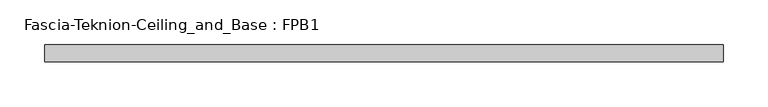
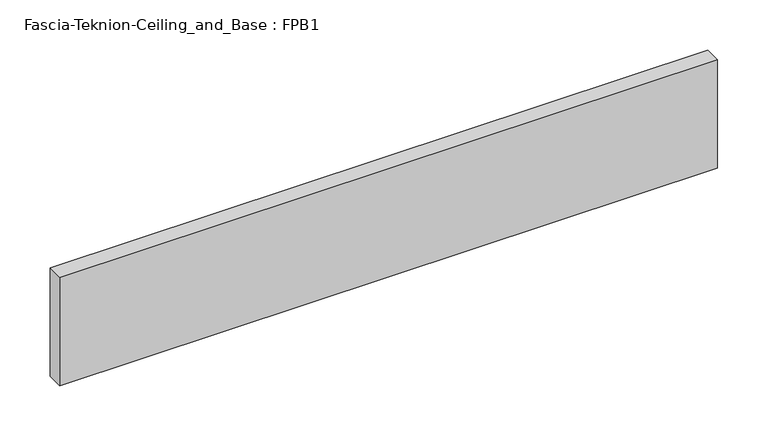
"""IFC4 building model written with IfcOpenShell, lengths in millimetres: proxy geometry, Fascia-Teknion-Ceiling_and_Base : FPB1."""

import ifcopenshell
import ifcopenshell.guid

model = None  # the IFC model being written
_history = None  # IfcOwnerHistory: only IFC2X3 demands one
_inside = {}  # id of a spatial element -> (the spatial element, [elements in it])
_under = {}  # id of a project, library or spatial element -> (it, [spatial elements below it])
_declared = {}  # id of a project -> (the project, [libraries it declares])
_typed = {}  # id of a type object -> (the type object, [elements of that type])
_made_of = {}  # id of a material, layer set ... -> (it, [elements and type objects made of it])


def new_model(schema):
    """Start an empty IFC model of exactly this schema.

    Asked for "IFC4X3", IfcOpenShell would pick the latest addendum, in which some entities
    have other attributes; the version numbers below select the first issue.
    IFC2X3 requires an IfcOwnerHistory on every rooted entity: one is made here for all.
    """
    global model, _history
    if schema == "IFC4X3":
        model = ifcopenshell.file(schema_version=(4, 3, 0, 0))
    else:
        model = ifcopenshell.file(schema=schema)
    _inside.clear()
    _under.clear()
    _declared.clear()
    _typed.clear()
    _made_of.clear()
    _history = None
    if model.schema == "IFC2X3":
        org = make("IfcOrganization", Name="unknown")
        user = make(
            "IfcPersonAndOrganization",
            ThePerson=make("IfcPerson", FamilyName="unknown"),
            TheOrganization=org,
        )
        app = make(
            "IfcApplication",
            ApplicationDeveloper=org,
            Version="unknown",
            ApplicationFullName="unknown",
            ApplicationIdentifier="unknown",
        )
        _history = make(
            "IfcOwnerHistory",
            OwningUser=user,
            OwningApplication=app,
            ChangeAction="ADDED",
            CreationDate=0,
        )
    return model


def make(cls, **values):
    """One entity of the class cls with the attributes given. An attribute that is None is left unset."""
    return model.create_entity(
        cls, **{name: value for name, value in values.items() if value is not None}
    )


def rooted(cls, **values):
    """An entity with a GlobalId (a new one), such as an element, a storey or a relation."""
    return make(cls, GlobalId=ifcopenshell.guid.new(), OwnerHistory=_history, **values)


def si_unit(unit_type, name, prefix=None):
    """IfcSIUnit, for example si_unit("LENGTHUNIT", "METRE", prefix="MILLI")."""
    return make("IfcSIUnit", UnitType=unit_type, Prefix=prefix, Name=name)


def assignment(units):
    """IfcUnitAssignment: the units of a project."""
    return None if units is None else make("IfcUnitAssignment", Units=units)


def point(xyz):
    """IfcCartesianPoint."""
    return None if xyz is None else make("IfcCartesianPoint", Coordinates=xyz)


def direction(xyz):
    """IfcDirection."""
    return None if xyz is None else make("IfcDirection", DirectionRatios=xyz)


def frame(location, z_axis=None, x_axis=None):
    """IfcAxis2Placement3D, a coordinate frame: its origin and axes. An axis left out is left unset."""
    return make(
        "IfcAxis2Placement3D",
        Location=point(location),
        Axis=direction(z_axis),
        RefDirection=direction(x_axis),
    )


def origin():
    """The frame at (0, 0, 0) with its axes left unset."""
    return frame((0.0, 0.0, 0.0))


def origin_with_axes():
    """The frame at (0, 0, 0) with the z axis (0, 0, 1) and the x axis (1, 0, 0) written out."""
    return frame((0.0, 0.0, 0.0), z_axis=(0.0, 0.0, 1.0), x_axis=(1.0, 0.0, 0.0))


def place(relative_to, where):
    """IfcLocalPlacement: puts the frame where relative to a parent placement (None: the world)."""
    return make(
        "IfcLocalPlacement", PlacementRelTo=relative_to, RelativePlacement=where
    )


def context(
    kind, dimensions, precision=None, world=None, true_north=None, identifier=None
):
    """IfcGeometricRepresentationContext, for example the 3D "Model" context."""
    return make(
        "IfcGeometricRepresentationContext",
        ContextIdentifier=identifier,
        ContextType=kind,
        CoordinateSpaceDimension=dimensions,
        Precision=precision,
        WorldCoordinateSystem=world,
        TrueNorth=true_north,
    )


def project(units=None, contexts=None):
    """IfcProject with its units and contexts."""
    return rooted(
        "IfcProject",
        Name="project",
        RepresentationContexts=contexts,
        UnitsInContext=assignment(units),
    )


def spatial(cls, under=None, at=None, **own):
    """A site, building, storey or space (cls), placed at a placement, below another one or the project."""
    s = rooted(cls, ObjectPlacement=at, **own)
    if under is not None:
        _under.setdefault(under.id(), (under, []))[1].append(s)
    return s


def polyline(points):
    """IfcPolyline through the points."""
    return make("IfcPolyline", Points=[point(p) for p in points])


def outline(outer, holes=None, kind="AREA"):
    """IfcArbitraryClosedProfileDef: a profile drawn as a closed curve; with holes, ...WithVoids."""
    if holes is None:
        return make("IfcArbitraryClosedProfileDef", ProfileType=kind, OuterCurve=outer)
    return make(
        "IfcArbitraryProfileDefWithVoids",
        ProfileType=kind,
        OuterCurve=outer,
        InnerCurves=holes,
    )


def extrude(swept, where, along, depth):
    """IfcExtrudedAreaSolid: the profile swept, set in the frame where, extruded along a direction by depth."""
    return make(
        "IfcExtrudedAreaSolid",
        SweptArea=swept,
        Position=where,
        ExtrudedDirection=direction(along),
        Depth=depth,
    )


def shape(context_of_items, identifier, shape_type, items):
    """IfcShapeRepresentation: the items that make up one representation, for example the "Body"."""
    return make(
        "IfcShapeRepresentation",
        ContextOfItems=context_of_items,
        RepresentationIdentifier=identifier,
        RepresentationType=shape_type,
        Items=items,
    )


def source(mapping_origin, context_of_items, identifier, shape_type, items):
    """IfcRepresentationMap: a shape defined once, which mapped items show again and again."""
    return make(
        "IfcRepresentationMap",
        MappingOrigin=mapping_origin,
        MappedRepresentation=shape(context_of_items, identifier, shape_type, items),
    )


def transform(
    local_origin,
    x_axis=None,
    y_axis=None,
    z_axis=None,
    scale=None,
    scale2=None,
    scale3=None,
    uniform=True,
):
    """IfcCartesianTransformationOperator3D, or its non-uniform kind. x_axis, y_axis, z_axis: its Axis1, 2, 3."""
    if uniform:
        return make(
            "IfcCartesianTransformationOperator3D",
            Axis1=direction(x_axis),
            Axis2=direction(y_axis),
            LocalOrigin=point(local_origin),
            Scale=scale,
            Axis3=direction(z_axis),
        )
    return make(
        "IfcCartesianTransformationOperator3DnonUniform",
        Axis1=direction(x_axis),
        Axis2=direction(y_axis),
        LocalOrigin=point(local_origin),
        Scale=scale,
        Axis3=direction(z_axis),
        Scale2=scale2,
        Scale3=scale3,
    )


def mapped(mapping_source, mapping_target):
    """IfcMappedItem: shows the shape of a source again, moved by a transform."""
    return make(
        "IfcMappedItem", MappingSource=mapping_source, MappingTarget=mapping_target
    )


def made_of(thing, what):
    """Note that an element or type object is made of a material, layer set ...; save() writes the relation."""
    if what is not None:
        _made_of.setdefault(what.id(), (what, []))[1].append(thing)
    return thing


def element(
    cls,
    number,
    at=None,
    inside=None,
    cuts=None,
    type_object=None,
    material=None,
    context=None,
    identifier="Body",
    shape_type=None,
    held_by="IfcProductDefinitionShape",
    body=None,
    shapes=None,
    **own,
):
    """One element of the class cls, such as IfcWall. Its Tag is "e" and its number.

    at: its placement. inside: the storey or other place that contains it. cuts: it is an
    opening in that element (IfcRelVoidsElement). A single representation is given by context,
    identifier, shape_type and body (its items); several are given by shapes. held_by: the class
    of the entity that holds the representations. save() writes the other relations.
    """
    e = rooted(cls, Tag="e%d" % number, ObjectPlacement=at, **own)
    if body is not None:
        shapes = [shape(context, identifier, shape_type, body)]
    if shapes is not None:
        e.Representation = make(held_by, Representations=shapes)
    if inside is not None:
        _inside.setdefault(inside.id(), (inside, []))[1].append(e)
    if cuts is not None:
        rooted(
            "IfcRelVoidsElement", RelatingBuildingElement=cuts, RelatedOpeningElement=e
        )
    if type_object is not None:
        _typed.setdefault(type_object.id(), (type_object, []))[1].append(e)
    return made_of(e, material)


def aggregate(whole, parts):
    """IfcRelAggregates: a whole, such as a stair, and the parts it consists of."""
    return rooted("IfcRelAggregates", RelatingObject=whole, RelatedObjects=parts)


def save(model, path):
    """Write the relations noted so far, then the file.

    IfcRelAggregates (storeys below a building ...), IfcRelContainedInSpatialStructure (elements
    in a storey), IfcRelDefinesByType, IfcRelAssociatesMaterial and IfcRelDeclares: one each for
    every whole, place, type object, material and project.
    """
    for whole, parts in _under.values():
        aggregate(whole, parts)
    for where, things in _inside.values():
        rooted(
            "IfcRelContainedInSpatialStructure",
            RelatedElements=things,
            RelatingStructure=where,
        )
    for kind, things in _typed.values():
        rooted("IfcRelDefinesByType", RelatedObjects=things, RelatingType=kind)
    for what, things in _made_of.values():
        rooted("IfcRelAssociatesMaterial", RelatedObjects=things, RelatingMaterial=what)
    for by, libraries in _declared.values():
        rooted("IfcRelDeclares", RelatingContext=by, RelatedDefinitions=libraries)
    model.write(path)


def fascia_teknion_ceiling_and_base_fpb1_da01dcf5(model_context):
    return source(origin(), model_context, "Body", "SweptSolid", [
        extrude(outline(polyline([(378.4203125, 0.0), (378.4203125, -19.05), (-378.4203125, -19.05), (-378.4203125, 0.0), (378.4203125, 0.0)])), origin_with_axes(), (0.0, 0.0, 1.0), 132.08),
    ])


if __name__ == "__main__":
    model = new_model("IFC4")
    model_context = context("Model", 3, world=origin())
    ifc_project = project(units=[si_unit("LENGTHUNIT", "METRE", prefix="MILLI")], contexts=[model_context])
    site = spatial("IfcSite", under=ifc_project)
    building = spatial("IfcBuilding", under=site)
    placement = place(None, origin())
    fascia_teknion_ceiling_and_base_fpb1_shape = fascia_teknion_ceiling_and_base_fpb1_da01dcf5(model_context)
    element("IfcBuildingElementProxy", 1, Name="Fascia-Teknion-Ceiling_and_Base : FPB1", ObjectType="Fascia-Teknion-Ceiling_and_Base : FPB1", at=placement, inside=building, context=model_context, shape_type="MappedRepresentation", body=[
        mapped(fascia_teknion_ceiling_and_base_fpb1_shape, transform((0.0, 0.0, 0.0), x_axis=(1.0, 0.0, 0.0), y_axis=(0.0, 1.0, 0.0), z_axis=(0.0, 0.0, 1.0))),
    ])
    save(model, "model.ifc")
